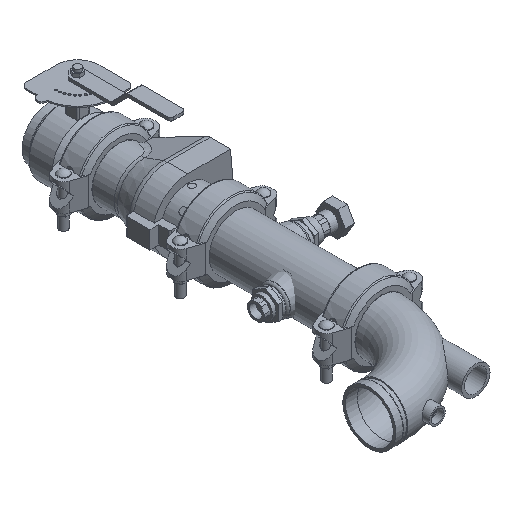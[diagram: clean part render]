
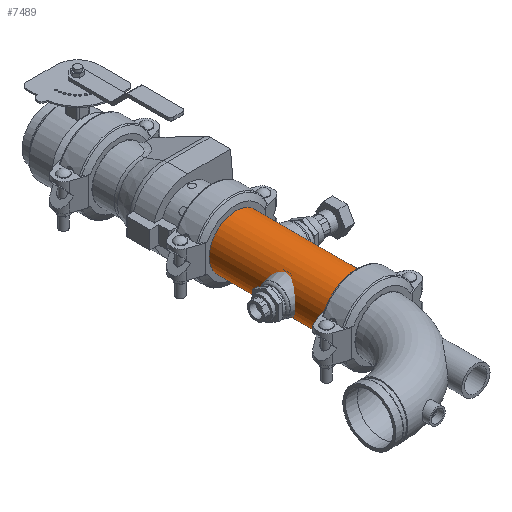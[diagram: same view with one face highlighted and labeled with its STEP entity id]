
A CAD part, isometric view. The second image highlights one B-rep face of the part: STEP entity #7489.
In plain terms, the highlighted cylindrical face has radius 57.15 mm (diameter 114.3 mm), a full revolution.
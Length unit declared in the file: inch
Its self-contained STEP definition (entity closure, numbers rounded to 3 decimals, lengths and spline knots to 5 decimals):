
#177=LINE('',#11325,#741);
#741=VECTOR('',#8995,2.25);
#1305=CYLINDRICAL_SURFACE('',#8089,2.25);
#1548=FACE_OUTER_BOUND('',#1969,.T.);
#1969=EDGE_LOOP('',(#4696,#4697,#4698,#4699,#4700,#4701));
#2478=CIRCLE('',#8087,2.25);
#2479=CIRCLE('',#8088,2.25);
#2480=CIRCLE('',#8090,2.25);
#2481=CIRCLE('',#8091,2.25);
#2904=VERTEX_POINT('',#11316);
#2905=VERTEX_POINT('',#11317);
#2906=VERTEX_POINT('',#11321);
#2907=VERTEX_POINT('',#11322);
#3620=EDGE_CURVE('',#2904,#2905,#2478,.T.);
#3621=EDGE_CURVE('',#2905,#2904,#2479,.T.);
#3622=EDGE_CURVE('',#2906,#2907,#2480,.T.);
#3623=EDGE_CURVE('',#2907,#2906,#2481,.T.);
#3624=EDGE_CURVE('',#2907,#2905,#177,.T.);
#4696=ORIENTED_EDGE('',*,*,#3622,.F.);
#4697=ORIENTED_EDGE('',*,*,#3623,.F.);
#4698=ORIENTED_EDGE('',*,*,#3624,.T.);
#4699=ORIENTED_EDGE('',*,*,#3621,.T.);
#4700=ORIENTED_EDGE('',*,*,#3620,.T.);
#4701=ORIENTED_EDGE('',*,*,#3624,.F.);
#7489=ADVANCED_FACE('',(#1548),#1305,.T.);
#8087=AXIS2_PLACEMENT_3D('',#11318,#8985,#8986);
#8088=AXIS2_PLACEMENT_3D('',#11319,#8987,#8988);
#8089=AXIS2_PLACEMENT_3D('',#11320,#8989,#8990);
#8090=AXIS2_PLACEMENT_3D('',#11323,#8991,#8992);
#8091=AXIS2_PLACEMENT_3D('',#11324,#8993,#8994);
#8985=DIRECTION('center_axis',(1.,0.,0.));
#8986=DIRECTION('ref_axis',(0.,0.,-1.));
#8987=DIRECTION('center_axis',(1.,0.,0.));
#8988=DIRECTION('ref_axis',(0.,0.,-1.));
#8989=DIRECTION('center_axis',(1.,0.,0.));
#8990=DIRECTION('ref_axis',(0.,1.,0.));
#8991=DIRECTION('center_axis',(1.,0.,0.));
#8992=DIRECTION('ref_axis',(0.,0.,-1.));
#8993=DIRECTION('center_axis',(1.,0.,0.));
#8994=DIRECTION('ref_axis',(0.,0.,-1.));
#8995=DIRECTION('',(-1.,0.,0.));
#11316=CARTESIAN_POINT('',(-5.0885,2.25,0.));
#11317=CARTESIAN_POINT('',(-5.0885,-2.25,0.));
#11318=CARTESIAN_POINT('Origin',(-5.0885,0.,0.));
#11319=CARTESIAN_POINT('Origin',(-5.0885,0.,0.));
#11320=CARTESIAN_POINT('Origin',(0.,0.,0.));
#11321=CARTESIAN_POINT('',(5.0885,2.25,0.));
#11322=CARTESIAN_POINT('',(5.0885,-2.25,0.));
#11323=CARTESIAN_POINT('Origin',(5.0885,0.,0.));
#11324=CARTESIAN_POINT('Origin',(5.0885,0.,0.));
#11325=CARTESIAN_POINT('',(0.,-2.25,0.));
